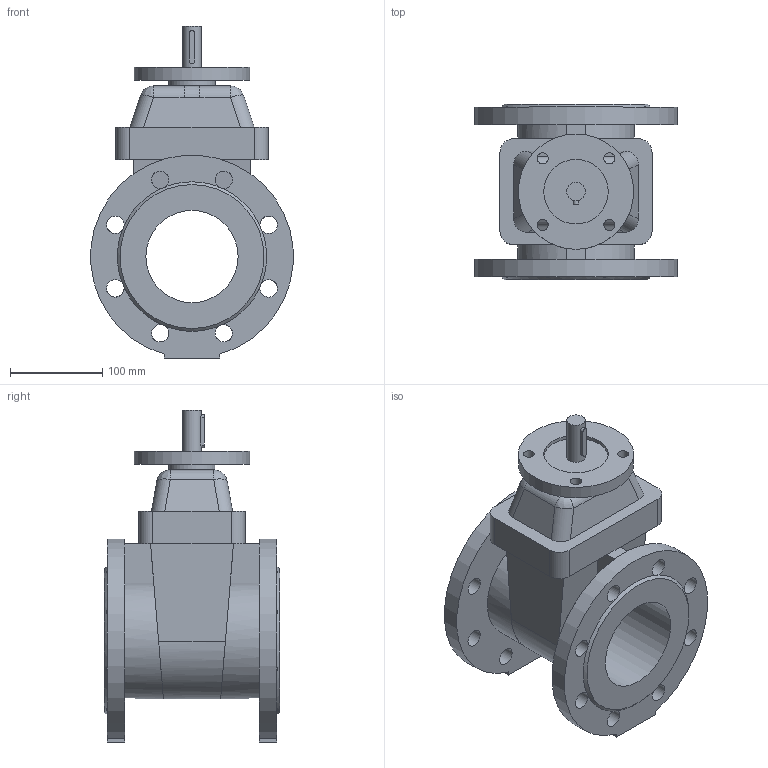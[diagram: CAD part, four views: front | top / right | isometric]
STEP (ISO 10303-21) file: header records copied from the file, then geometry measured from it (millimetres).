
FILE_DESCRIPTION(('STEP AP203'), '1');
FILE_NAME('Çàäâèæêà 47GVA DN100 PN10_PN16 áåç èñïîëíèò. ìåõ.', '', ('UNSPECIFIED'), ('UNSPECIFIED'), 'ASCON STEP Converter 1.6', 'ASCON Math Kernel', '');
FILE_SCHEMA(('CONFIG_CONTROL_DESIGN'));
Length unit declared in the file: millimetre
Bounding box: 219.31 x 190 x 360 mm (x, y, z)
Volume: 3711583.7 mm3; surface area: 372069.7 mm2
Topology: 1 solids, 1 shells, 122 faces, 352 edges, 223 vertices
Faces by surface type: plane 59, cylinder 54, bspline 7, cone 2
Full cylindrical faces by diameter (mm): 12 x4, 19 x16, 20 x1, 50 x1, 70 x1, 100 x1, 125 x1
Entity records: 6330 total; most frequent: CARTESIAN_POINT 2158, DIRECTION 650, ORIENTED_EDGE 640, EDGE_CURVE 320, AXIS2_PLACEMENT_3D 253, VERTEX_POINT 223, EDGE_LOOP 187, FACE_BOUND 152
